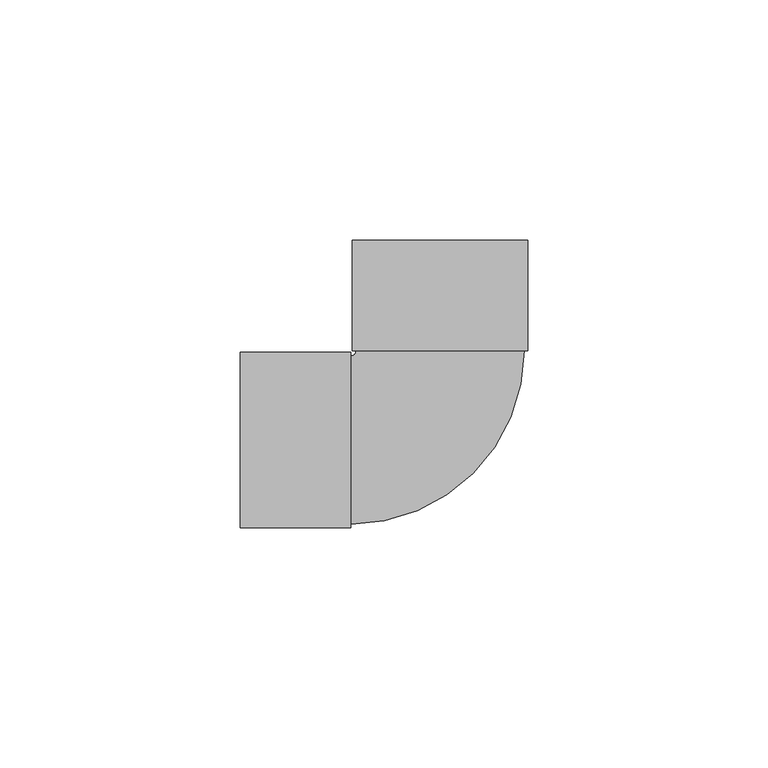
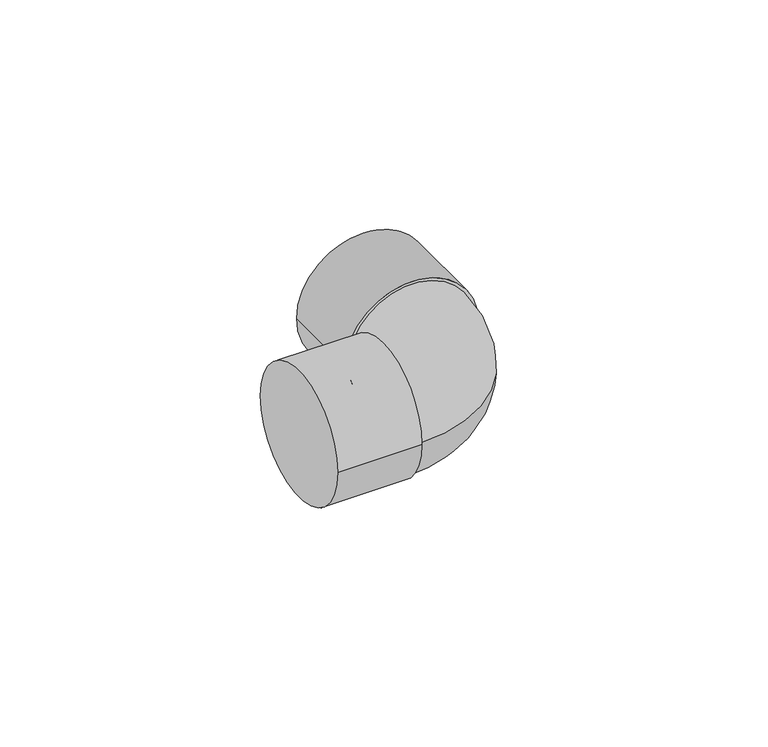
"""IFC4 building model written with IfcOpenShell, lengths in millimetres: pipe fitting geometry, Cotovelo - Soldado - CU : Padrão."""

from ifc_helpers import new_model, si_unit, point, frame, origin, place, context, project, spatial, circle_curve, ellipse_curve, trimmed, source, transform, mapped, element, save
from ifc_brep_helpers import plane_surface, cylinder_surface, revolved_surface, advanced_brep


def pipe_fitting_0964a024(model_context):
    return source(origin(), model_context, "Body", "AdvancedBrep", [
        advanced_brep(
        [(-17.5008805, 18.5991715, 0.0), (-18.6, 17.5, 0.0), (-18.6, -17.5, 0.0), (17.4991194, 18.6008285, 0.0), (-41.6, -18.28, 0.0), (-41.6, 18.28, 0.0), (-18.6, -18.28, 0.0), (-18.6, 18.28, 0.0), (-18.2819694, 41.5991346, 0.0), (18.2780306, 41.6008654, 0.0), (-18.2808805, 18.5991346, 0.0), (18.2791194, 18.6008654, 0.0)],
        [
            (0, 1, circle_curve(frame((-18.6, 18.5991195, 0.0), z_axis=(0.0, 0.0, -1.0), x_axis=(0.0, -1.0, 0.0)), 1.0991195)),
            (1, 2, circle_curve(frame((-18.6, 0.0, 0.0), z_axis=(1.0, 0.0, 0.0), x_axis=(0.0, 1.0, 0.0)), 17.5)),
            (2, 3, circle_curve(frame((-18.6, 18.5991195, 0.0), z_axis=(0.0, 0.0, 1.0), x_axis=(0.0, -1.0, 0.0)), 36.0991195)),
            (3, 0, circle_curve(frame((-0.0008805, 18.6, 0.0), z_axis=(4.7341195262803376e-05, -0.9999999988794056, 0.0), x_axis=(-0.9999999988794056, -4.7341195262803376e-05, 0.0)), 17.5)),
            (0, 3, circle_curve(frame((-0.0008805, 18.6, 0.0), z_axis=(4.7341195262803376e-05, -0.9999999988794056, 0.0), x_axis=(-0.9999999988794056, -4.7341195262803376e-05, 0.0)), 17.5)),
            (2, 1, circle_curve(frame((-18.6, 0.0, 0.0), z_axis=(1.0, 0.0, 0.0), x_axis=(0.0, 1.0, 0.0)), 17.5)),
            (4, 5, circle_curve(frame((-41.6, 0.0, 0.0), z_axis=(-1.0, 0.0, 0.0), x_axis=(0.0, 1.0, 0.0)), 18.28)),
            (5, 4, circle_curve(frame((-41.6, 0.0, 0.0), z_axis=(-1.0, 0.0, 0.0), x_axis=(0.0, 1.0, 0.0)), 18.28)),
            (6, 7, circle_curve(frame((-18.6, 0.0, 0.0), z_axis=(1.0, 0.0, 0.0), x_axis=(0.0, 1.0, 0.0)), 18.28)),
            (7, 6, circle_curve(frame((-18.6, 0.0, 0.0), z_axis=(1.0, 0.0, 0.0), x_axis=(0.0, 1.0, 0.0)), 18.28)),
            (4, 6),
            (7, 5),
            (8, 9, circle_curve(frame((-0.0019694, 41.6, 0.0), z_axis=(-4.734119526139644e-05, 0.9999999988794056, 0.0), x_axis=(0.9999999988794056, 4.734119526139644e-05, 0.0)), 18.28)),
            (9, 8, circle_curve(frame((-0.0019694, 41.6, 0.0), z_axis=(-4.734119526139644e-05, 0.9999999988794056, 0.0), x_axis=(0.9999999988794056, 4.734119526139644e-05, 0.0)), 18.28)),
            (10, 11, circle_curve(frame((-0.0008805, 18.6, 0.0), z_axis=(4.734119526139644e-05, -0.9999999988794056, 0.0), x_axis=(0.9999999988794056, 4.734119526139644e-05, 0.0)), 18.28)),
            (11, 10, circle_curve(frame((-0.0008805, 18.6, 0.0), z_axis=(4.734119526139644e-05, -0.9999999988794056, 0.0), x_axis=(0.9999999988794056, 4.734119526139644e-05, 0.0)), 18.28)),
            (8, 10),
            (11, 9),
        ],
        [
            revolved_surface(trimmed(ellipse_curve(frame((-18.6, 0.0, 0.0), z_axis=(-1.0, 0.0, 0.0), x_axis=(0.0, 1.0, 0.0)), 17.5, 17.5), [point((-18.6, -17.5, 0.0))], [point((-18.6, 17.5, 0.0))], True, "CARTESIAN"), (-18.6, 18.5991195, 0.0), (0.0, 0.0, 1.0)),
            revolved_surface(trimmed(ellipse_curve(frame((-18.6, 0.0, 0.0), z_axis=(-1.0, 0.0, 0.0), x_axis=(0.0, 1.0, 0.0)), 17.5, 17.5), [point((-18.6, 17.5, 0.0))], [point((-18.6, -17.5, 0.0))], True, "CARTESIAN"), (-18.6, 18.5991195, 0.0), (0.0, 0.0, 1.0)),
            plane_surface(frame((-41.6, 0.0, 0.0), z_axis=(-1.0, 0.0, 0.0), x_axis=(0.0, 0.0, 1.0))),
            plane_surface(frame((-18.6, 0.0, 0.0), z_axis=(1.0, 0.0, 0.0), x_axis=(0.0, 0.0, 1.0))),
            cylinder_surface(frame((-41.6, 0.0, 0.0), z_axis=(-1.0, 0.0, 0.0), x_axis=(0.0, 1.0, 0.0)), 18.28),
            plane_surface(frame((-0.0019694, 41.6, 0.0), z_axis=(-4.734119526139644e-05, 0.9999999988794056, 0.0), x_axis=(0.0, 0.0, 1.0))),
            plane_surface(frame((-0.0008805, 18.6, 0.0), z_axis=(4.734119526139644e-05, -0.9999999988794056, 0.0), x_axis=(0.0, 0.0, 1.0))),
            cylinder_surface(frame((-0.0019694, 41.6, 0.0), z_axis=(-4.734119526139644e-05, 0.9999999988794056, 0.0), x_axis=(0.9999999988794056, 4.734119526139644e-05, 0.0)), 18.28),
        ],
        [
            (0, [[1, 2, 3, 4]]),
            (1, [[-1, 5, -3, 6]]),
            (2, [[7, 8]]),
            (3, [[9, 10], [-2, -6]]),
            (4, [[-7, 11, -10, 12]]),
            (4, [[-8, -12, -9, -11]]),
            (5, [[13, 14]]),
            (6, [[15, 16], [-4, -5]]),
            (7, [[-13, 17, -16, 18]]),
            (7, [[-14, -18, -15, -17]]),
        ],
    ),
    ])


if __name__ == "__main__":
    model = new_model("IFC4")
    model_context = context("Model", 3, world=origin())
    ifc_project = project(units=[si_unit("LENGTHUNIT", "METRE", prefix="MILLI")], contexts=[model_context])
    site = spatial("IfcSite", under=ifc_project)
    building = spatial("IfcBuilding", under=site)
    placement = place(None, origin())
    pipe_fitting_shape = pipe_fitting_0964a024(model_context)
    element("IfcPipeFitting", 1, ObjectType="Cotovelo - Soldado - CU : Padrão", at=placement, inside=building, context=model_context, shape_type="MappedRepresentation", body=[
        mapped(pipe_fitting_shape, transform((0.0, 0.0, 0.0), x_axis=(1.0, 0.0, 0.0), y_axis=(0.0, 1.0, 0.0), z_axis=(0.0, 0.0, 1.0))),
    ])
    save(model, "model.ifc")
